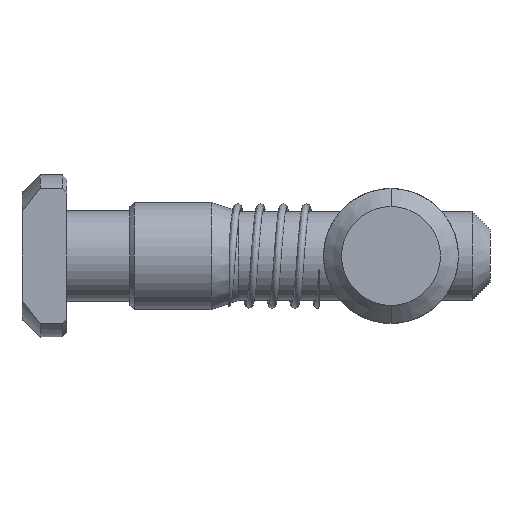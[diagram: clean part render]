
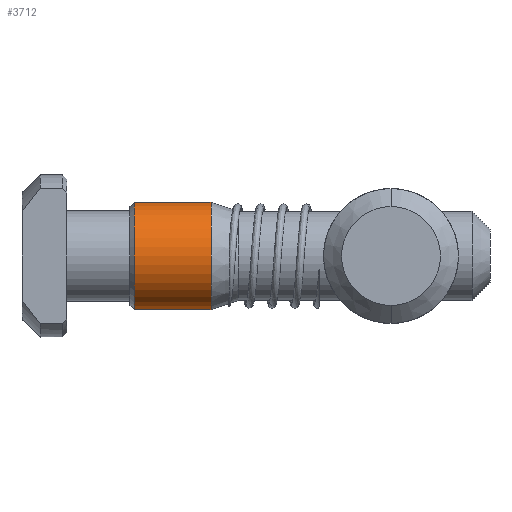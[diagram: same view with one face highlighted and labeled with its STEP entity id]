
A CAD part, left-side view. The second image highlights one B-rep face of the part: STEP entity #3712.
In plain terms, the highlighted cylindrical face has radius 5.95 mm (diameter 11.9 mm), a partial arc.
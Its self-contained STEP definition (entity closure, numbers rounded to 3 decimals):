
#445 = ORIENTED_EDGE ( 'NONE', *, *, #1417, .T. ) ;
#525 = ORIENTED_EDGE ( 'NONE', *, *, #3300, .T. ) ;
#531 = CYLINDRICAL_SURFACE ( 'NONE', #1608, 5.95 ) ;
#615 = ORIENTED_EDGE ( 'NONE', *, *, #3229, .F. ) ;
#667 = CARTESIAN_POINT ( 'NONE',  ( -1.519, 10.879, 8.532 ) ) ;
#713 = ORIENTED_EDGE ( 'NONE', *, *, #1722, .F. ) ;
#852 = CARTESIAN_POINT ( 'NONE',  ( -1.519, 10.879, -3.368 ) ) ;
#891 = AXIS2_PLACEMENT_3D ( 'NONE', #1187, #1159, #2499 ) ;
#1050 = FACE_OUTER_BOUND ( 'NONE', #1913, .T. ) ;
#1159 = DIRECTION ( 'NONE',  ( 0., 1., 0. ) ) ;
#1187 = CARTESIAN_POINT ( 'NONE',  ( -1.519, 2.379, 2.582 ) ) ;
#1254 = CIRCLE ( 'NONE', #2297, 5.95 ) ;
#1310 = DIRECTION ( 'NONE',  ( 0., 0., 1. ) ) ;
#1387 = DIRECTION ( 'NONE',  ( 0., 1., 0. ) ) ;
#1417 = EDGE_CURVE ( 'NONE', #1590, #3428, #2324, .T. ) ;
#1446 = CARTESIAN_POINT ( 'NONE',  ( -1.519, 23.379, 2.582 ) ) ;
#1460 = DIRECTION ( 'NONE',  ( 0., 0., 1. ) ) ;
#1590 = VERTEX_POINT ( 'NONE', #1730 ) ;
#1608 = AXIS2_PLACEMENT_3D ( 'NONE', #1446, #1387, #1460 ) ;
#1722 = EDGE_CURVE ( 'NONE', #2000, #2033, #1254, .T. ) ;
#1730 = CARTESIAN_POINT ( 'NONE',  ( -1.519, 2.379, -3.368 ) ) ;
#1913 = EDGE_LOOP ( 'NONE', ( #615, #445, #525, #713 ) ) ;
#2000 = VERTEX_POINT ( 'NONE', #852 ) ;
#2033 = VERTEX_POINT ( 'NONE', #667 ) ;
#2297 = AXIS2_PLACEMENT_3D ( 'NONE', #2815, #2986, #1310 ) ;
#2324 = CIRCLE ( 'NONE', #891, 5.95 ) ;
#2499 = DIRECTION ( 'NONE',  ( 0., 0., 1. ) ) ;
#2815 = CARTESIAN_POINT ( 'NONE',  ( -1.519, 10.879, 2.582 ) ) ;
#2985 = CARTESIAN_POINT ( 'NONE',  ( -1.519, 2.379, 8.532 ) ) ;
#2986 = DIRECTION ( 'NONE',  ( 0., 1., 0. ) ) ;
#3229 = EDGE_CURVE ( 'NONE', #1590, #2000, #3590, .T. ) ;
#3298 = VECTOR ( 'NONE', #3372, 1000. ) ;
#3300 = EDGE_CURVE ( 'NONE', #3428, #2033, #3985, .T. ) ;
#3372 = DIRECTION ( 'NONE',  ( 0., 1., 0. ) ) ;
#3428 = VERTEX_POINT ( 'NONE', #2985 ) ;
#3590 = LINE ( 'NONE', #3821, #3885 ) ;
#3712 = ADVANCED_FACE ( 'NONE', ( #1050 ), #531, .T. ) ;
#3781 = CARTESIAN_POINT ( 'NONE',  ( -1.519, 23.379, 8.532 ) ) ;
#3793 = DIRECTION ( 'NONE',  ( 0., 1., 0. ) ) ;
#3821 = CARTESIAN_POINT ( 'NONE',  ( -1.519, 23.379, -3.368 ) ) ;
#3885 = VECTOR ( 'NONE', #3793, 1000. ) ;
#3985 = LINE ( 'NONE', #3781, #3298 ) ;
